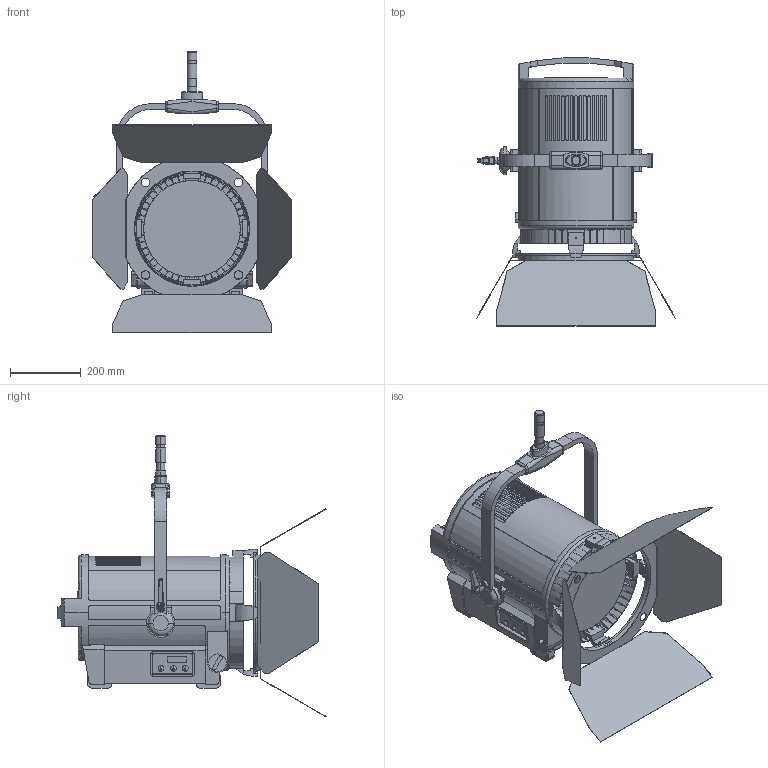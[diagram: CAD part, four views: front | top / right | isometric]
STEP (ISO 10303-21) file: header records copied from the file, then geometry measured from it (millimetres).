
FILE_DESCRIPTION (( 'STEP AP214' ), '1' );
FILE_NAME ('L10-man-silber.STEP', '2015-08-17T11:40:38', ( '' ), ( '' ), 'SwSTEP 2.0', 'SolidWorks 2013', '' );
FILE_SCHEMA (( 'AUTOMOTIVE_DESIGN' ));
Length unit declared in the file: millimetre
Products named in the file (6): L10_Linsengehaeuse_reduziert; L10_Buegellager_reduziert_L10 P.O.; L10_Gehaeuse_reduziert_L10 manuell; L10-man-silber; L10_Haltebuegel_reduziert; L10_Fluegeltor_reduziert
Assembly tree (6 placements, depth 2):
  L10-man-silber
    L10_Gehaeuse_reduziert_L10 manuell
    L10_Buegellager_reduziert_L10 P.O.  x2
    L10_Linsengehaeuse_reduziert
    L10_Haltebuegel_reduziert
    L10_Fluegeltor_reduziert
Bounding box: 565 x 760.54 x 798.5 mm (x, y, z)
Volume: 43690687.1 mm3; surface area: 2641515.7 mm2
Topology: 7 solids, 7 shells, 1102 faces, 3020 edges, 1984 vertices
Faces by surface type: plane 749, cylinder 302, torus 17, bspline 17, cone 15, sphere 2
Entity records: 41722 total; most frequent: CARTESIAN_POINT 10344, ORIENTED_EDGE 5914, DIRECTION 5438, EDGE_CURVE 2957, LINE 2020, VECTOR 2020, VERTEX_POINT 1942, AXIS2_PLACEMENT_3D 1709
